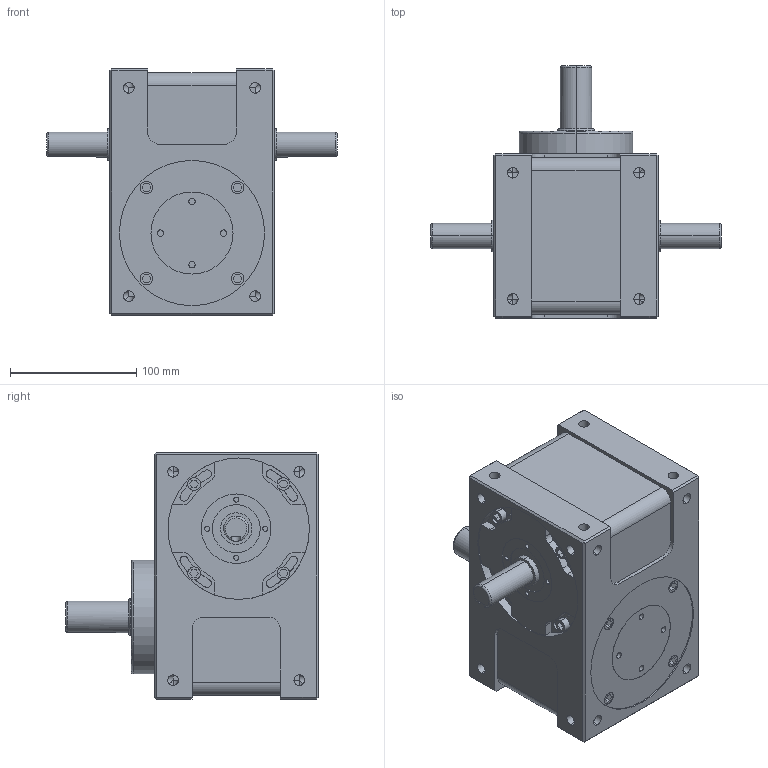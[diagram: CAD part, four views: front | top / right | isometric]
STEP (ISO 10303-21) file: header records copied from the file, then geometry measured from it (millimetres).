
FILE_DESCRIPTION (( 'STEP AP203' ), '1' );
FILE_NAME ('70DS.STEP', '2017-05-06T05:41:12', ( '微软用户' ), ( '微软中国' ), 'SwSTEP 2.0', 'SolidWorks 2013', '' );
FILE_SCHEMA (( 'CONFIG_CONTROL_DESIGN' ));
Length unit declared in the file: millimetre
Products named in the file (1): 70DS
Bounding box: 230 x 200 x 195 mm (x, y, z)
Volume: 3265309.5 mm3; surface area: 174650.2 mm2
Topology: 1 solids, 1 shells, 781 faces, 2020 edges, 1307 vertices
Faces by surface type: plane 484, cylinder 228, bspline 60, torus 9
Entity records: 26856 total; most frequent: CARTESIAN_POINT 7691, ORIENTED_EDGE 4040, DIRECTION 3815, EDGE_CURVE 2020, VECTOR 1325, LINE 1325, VERTEX_POINT 1307, AXIS2_PLACEMENT_3D 1245
